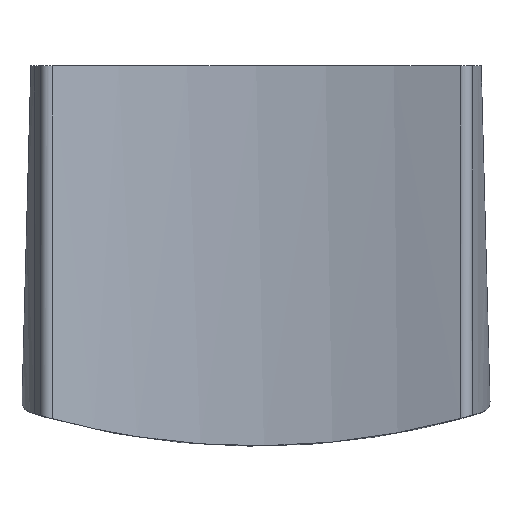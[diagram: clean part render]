
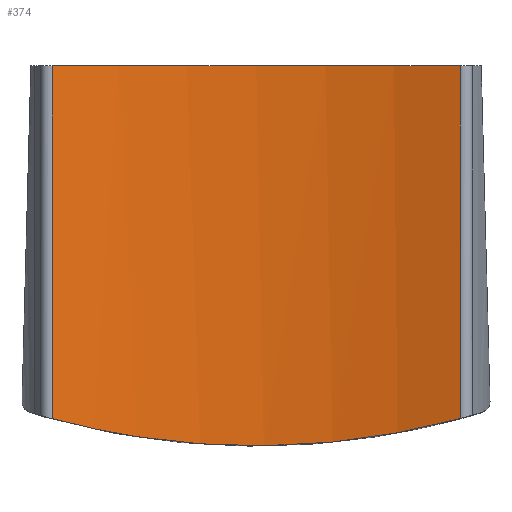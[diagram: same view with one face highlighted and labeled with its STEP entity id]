
A CAD part, top view. The second image highlights one B-rep face of the part: STEP entity #374.
In plain terms, the highlighted cylindrical face has radius 33.165 mm (diameter 66.329 mm), a partial arc.
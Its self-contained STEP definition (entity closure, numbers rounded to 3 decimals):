
#176 = VERTEX_POINT( '', #441 );
#178 = EDGE_CURVE( '', #366, #176, #443, .T. );
#264 = VERTEX_POINT( '', #538 );
#316 = EDGE_CURVE( '', #176, #264, #595, .T. );
#328 = VERTEX_POINT( '', #607 );
#332 = EDGE_CURVE( '', #328, #264, #611, .T. );
#350 = EDGE_CURVE( '', #328, #366, #631, .T. );
#366 = VERTEX_POINT( '', #648 );
#374 = ADVANCED_FACE( '', ( #658 ), #659, .F. );
#441 = CARTESIAN_POINT( '', ( 11.355, -19.587, 6.623 ) );
#443 = LINE( '', #771, #772 );
#538 = CARTESIAN_POINT( '', ( -11.332, -19.593, 6.623 ) );
#595 = B_SPLINE_CURVE_WITH_KNOTS( '', 3, ( #1086, #1087, #1088, #1089, #1090, #1091, #1092, #1093, #1094, #1095, #1096, #1097, #1098, #1099 ), .UNSPECIFIED., .F., .F., ( 4, 2, 2, 2, 2, 2, 4 ), ( 4.542, 7.802, 11.703, 15.604, 19.506, 23.407, 26.642 ), .UNSPECIFIED. );
#607 = CARTESIAN_POINT( '', ( -11.332, 0., 6.623 ) );
#611 = LINE( '', #1121, #1122 );
#631 = CIRCLE( '', #1150, 33.165 );
#648 = CARTESIAN_POINT( '', ( 11.355, 0., 6.623 ) );
#658 = FACE_OUTER_BOUND( '', #1184, .T. );
#659 = CYLINDRICAL_SURFACE( '', #1185, 33.165 );
#771 = CARTESIAN_POINT( '', ( 11.355, 0., 6.623 ) );
#772 = VECTOR( '', #1256, 1. );
#1086 = CARTESIAN_POINT( '', ( 11.355, -19.587, 6.623 ) );
#1087 = CARTESIAN_POINT( '', ( 10.299, -19.874, 6.239 ) );
#1088 = CARTESIAN_POINT( '', ( 9.201, -20.13, 5.901 ) );
#1089 = CARTESIAN_POINT( '', ( 6.744, -20.597, 5.284 ) );
#1090 = CARTESIAN_POINT( '', ( 5.374, -20.791, 5.031 ) );
#1091 = CARTESIAN_POINT( '', ( 2.652, -21.045, 4.7 ) );
#1092 = CARTESIAN_POINT( '', ( 1.299, -21.105, 4.623 ) );
#1093 = CARTESIAN_POINT( '', ( -1.301, -21.105, 4.624 ) );
#1094 = CARTESIAN_POINT( '', ( -2.654, -21.045, 4.702 ) );
#1095 = CARTESIAN_POINT( '', ( -5.376, -20.791, 5.035 ) );
#1096 = CARTESIAN_POINT( '', ( -6.746, -20.597, 5.289 ) );
#1097 = CARTESIAN_POINT( '', ( -9.194, -20.131, 5.906 ) );
#1098 = CARTESIAN_POINT( '', ( -10.283, -19.878, 6.242 ) );
#1099 = CARTESIAN_POINT( '', ( -11.332, -19.593, 6.623 ) );
#1121 = CARTESIAN_POINT( '', ( -11.332, 0., 6.623 ) );
#1122 = VECTOR( '', #1437, 1. );
#1150 = AXIS2_PLACEMENT_3D( '', #1460, #1461, #1462 );
#1184 = EDGE_LOOP( '', ( #1500, #1501, #1502, #1503 ) );
#1185 = AXIS2_PLACEMENT_3D( '', #1504, #1505, #1506 );
#1256 = DIRECTION( '', ( 0., -1., 0. ) );
#1437 = DIRECTION( '', ( 0., -1., 0. ) );
#1460 = CARTESIAN_POINT( '', ( 0.011, 0., 37.788 ) );
#1461 = DIRECTION( '', ( 0., -1., 0. ) );
#1462 = DIRECTION( '', ( -0.342, 0., -0.94 ) );
#1500 = ORIENTED_EDGE( '', *, *, #316, .F. );
#1501 = ORIENTED_EDGE( '', *, *, #178, .F. );
#1502 = ORIENTED_EDGE( '', *, *, #350, .F. );
#1503 = ORIENTED_EDGE( '', *, *, #332, .T. );
#1504 = CARTESIAN_POINT( '', ( 0.011, 0., 37.788 ) );
#1505 = DIRECTION( '', ( 0., 1., 0. ) );
#1506 = DIRECTION( '', ( -0.342, 0., -0.94 ) );
